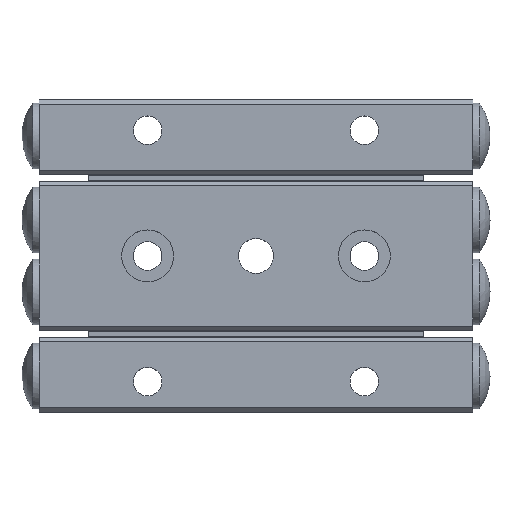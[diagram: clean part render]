
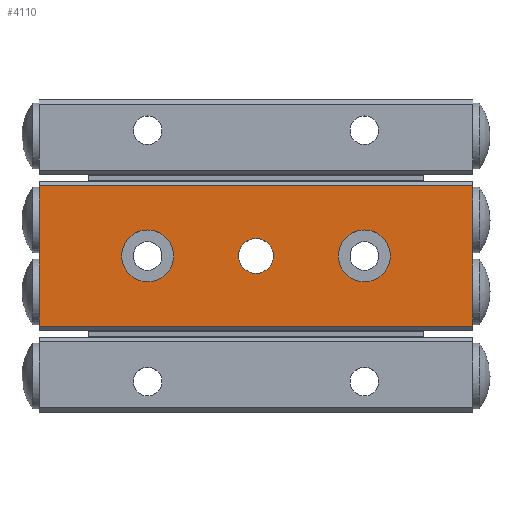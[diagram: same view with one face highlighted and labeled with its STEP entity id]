
A CAD part, top view. The second image highlights one B-rep face of the part: STEP entity #4110.
In plain terms, the highlighted planar face has unit normal (0, 0, 1) as drawn and (0, -1, 0) by its records, which use the part's own axes.
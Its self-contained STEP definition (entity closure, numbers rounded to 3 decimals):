
#222=CIRCLE('',#5504,2.);
#223=CIRCLE('',#5505,3.);
#224=CIRCLE('',#5506,3.);
#374=ORIENTED_EDGE('',*,*,#1597,.F.);
#375=ORIENTED_EDGE('',*,*,#1598,.F.);
#376=ORIENTED_EDGE('',*,*,#1599,.F.);
#377=ORIENTED_EDGE('',*,*,#1590,.T.);
#378=ORIENTED_EDGE('',*,*,#1600,.T.);
#379=ORIENTED_EDGE('',*,*,#1601,.T.);
#380=ORIENTED_EDGE('',*,*,#1602,.T.);
#381=ORIENTED_EDGE('',*,*,#1583,.T.);
#382=ORIENTED_EDGE('',*,*,#1603,.F.);
#383=ORIENTED_EDGE('',*,*,#1576,.F.);
#384=ORIENTED_EDGE('',*,*,#1604,.F.);
#385=ORIENTED_EDGE('',*,*,#1605,.F.);
#386=ORIENTED_EDGE('',*,*,#1606,.F.);
#387=ORIENTED_EDGE('',*,*,#1584,.F.);
#388=ORIENTED_EDGE('',*,*,#1596,.T.);
#1576=EDGE_CURVE('',#2190,#2191,#2597,.T.);
#1583=EDGE_CURVE('',#2194,#2197,#2603,.T.);
#1584=EDGE_CURVE('',#2198,#2199,#2604,.T.);
#1590=EDGE_CURVE('',#2205,#2203,#2608,.T.);
#1596=EDGE_CURVE('',#2198,#2205,#2614,.T.);
#1597=EDGE_CURVE('',#2208,#2208,#222,.T.);
#1598=EDGE_CURVE('',#2209,#2209,#223,.T.);
#1599=EDGE_CURVE('',#2210,#2210,#224,.T.);
#1600=EDGE_CURVE('',#2203,#2211,#2615,.T.);
#1601=EDGE_CURVE('',#2211,#2212,#2616,.T.);
#1602=EDGE_CURVE('',#2212,#2194,#2617,.T.);
#1603=EDGE_CURVE('',#2191,#2197,#2618,.T.);
#1604=EDGE_CURVE('',#2213,#2190,#2619,.T.);
#1605=EDGE_CURVE('',#2214,#2213,#2620,.T.);
#1606=EDGE_CURVE('',#2199,#2214,#2621,.T.);
#2190=VERTEX_POINT('',#7185);
#2191=VERTEX_POINT('',#7187);
#2194=VERTEX_POINT('',#7194);
#2197=VERTEX_POINT('',#7200);
#2198=VERTEX_POINT('',#7204);
#2199=VERTEX_POINT('',#7205);
#2203=VERTEX_POINT('',#7215);
#2205=VERTEX_POINT('',#7218);
#2208=VERTEX_POINT('',#7231);
#2209=VERTEX_POINT('',#7233);
#2210=VERTEX_POINT('',#7235);
#2211=VERTEX_POINT('',#7237);
#2212=VERTEX_POINT('',#7239);
#2213=VERTEX_POINT('',#7243);
#2214=VERTEX_POINT('',#7245);
#2597=LINE('',#7186,#2979);
#2603=LINE('',#7201,#2985);
#2604=LINE('',#7203,#2986);
#2608=LINE('',#7217,#2990);
#2614=LINE('',#7228,#2996);
#2615=LINE('',#7236,#2997);
#2616=LINE('',#7238,#2998);
#2617=LINE('',#7240,#2999);
#2618=LINE('',#7241,#3000);
#2619=LINE('',#7242,#3001);
#2620=LINE('',#7244,#3002);
#2621=LINE('',#7246,#3003);
#2979=VECTOR('',#5934,1000.);
#2985=VECTOR('',#5944,1000.);
#2986=VECTOR('',#5947,1000.);
#2990=VECTOR('',#5957,1000.);
#2996=VECTOR('',#5967,1000.);
#2997=VECTOR('',#5976,1000.);
#2998=VECTOR('',#5977,1000.);
#2999=VECTOR('',#5978,1000.);
#3000=VECTOR('',#5979,1000.);
#3001=VECTOR('',#5980,1000.);
#3002=VECTOR('',#5981,1000.);
#3003=VECTOR('',#5982,1000.);
#3366=EDGE_LOOP('',(#374));
#3367=EDGE_LOOP('',(#375));
#3368=EDGE_LOOP('',(#376));
#3369=EDGE_LOOP('',(#377,#378,#379,#380,#381,#382,#383,#384,#385,#386,#387,
#388));
#3654=FACE_BOUND('',#3366,.T.);
#3655=FACE_BOUND('',#3367,.T.);
#3656=FACE_BOUND('',#3368,.T.);
#3657=FACE_BOUND('',#3369,.T.);
#3942=PLANE('',#5503);
#4110=ADVANCED_FACE('',(#3654,#3655,#3656,#3657),#3942,.F.);
#5503=AXIS2_PLACEMENT_3D('',#7229,#5968,#5969);
#5504=AXIS2_PLACEMENT_3D('',#7230,#5970,#5971);
#5505=AXIS2_PLACEMENT_3D('',#7232,#5972,#5973);
#5506=AXIS2_PLACEMENT_3D('',#7234,#5974,#5975);
#5934=DIRECTION('',(0.,0.,-1.));
#5944=DIRECTION('',(0.,0.,-1.));
#5947=DIRECTION('',(0.,0.,-1.));
#5957=DIRECTION('',(0.,0.,-1.));
#5967=DIRECTION('',(-1.,0.,0.));
#5968=DIRECTION('',(0.,1.,0.));
#5969=DIRECTION('',(0.,0.,1.));
#5970=DIRECTION('',(0.,-1.,0.));
#5971=DIRECTION('',(0.,0.,-1.));
#5972=DIRECTION('',(0.,-1.,0.));
#5973=DIRECTION('',(0.,0.,-1.));
#5974=DIRECTION('',(0.,-1.,0.));
#5975=DIRECTION('',(0.,0.,-1.));
#5976=DIRECTION('',(0.,0.,-1.));
#5977=DIRECTION('',(0.,0.,-1.));
#5978=DIRECTION('',(0.,0.,-1.));
#5979=DIRECTION('',(-1.,0.,0.));
#5980=DIRECTION('',(0.,0.,-1.));
#5981=DIRECTION('',(0.,0.,-1.));
#5982=DIRECTION('',(0.,0.,-1.));
#7185=CARTESIAN_POINT('',(52.,0.,-5.63));
#7186=CARTESIAN_POINT('',(52.,0.,8.1));
#7187=CARTESIAN_POINT('',(52.,0.,-8.1));
#7194=CARTESIAN_POINT('',(2.,0.,-5.63));
#7200=CARTESIAN_POINT('',(2.,0.,-8.1));
#7201=CARTESIAN_POINT('',(2.,0.,8.1));
#7203=CARTESIAN_POINT('',(52.,0.,8.1));
#7204=CARTESIAN_POINT('',(52.,0.,8.1));
#7205=CARTESIAN_POINT('',(52.,0.,5.63));
#7215=CARTESIAN_POINT('',(2.,0.,5.63));
#7217=CARTESIAN_POINT('',(2.,0.,8.1));
#7218=CARTESIAN_POINT('',(2.,0.,8.1));
#7228=CARTESIAN_POINT('',(52.,0.,8.1));
#7229=CARTESIAN_POINT('',(52.,0.,8.1));
#7230=CARTESIAN_POINT('',(27.,0.,0.));
#7231=CARTESIAN_POINT('',(27.,0.,-2.));
#7232=CARTESIAN_POINT('',(39.5,0.,0.));
#7233=CARTESIAN_POINT('',(39.5,0.,-3.));
#7234=CARTESIAN_POINT('',(14.5,0.,0.));
#7235=CARTESIAN_POINT('',(14.5,0.,-3.));
#7236=CARTESIAN_POINT('',(2.,0.,8.1));
#7237=CARTESIAN_POINT('',(2.,0.,2.67));
#7238=CARTESIAN_POINT('',(2.,0.,8.1));
#7239=CARTESIAN_POINT('',(2.,0.,-2.67));
#7240=CARTESIAN_POINT('',(2.,0.,8.1));
#7241=CARTESIAN_POINT('',(52.,0.,-8.1));
#7242=CARTESIAN_POINT('',(52.,0.,8.1));
#7243=CARTESIAN_POINT('',(52.,0.,-2.67));
#7244=CARTESIAN_POINT('',(52.,0.,8.1));
#7245=CARTESIAN_POINT('',(52.,0.,2.67));
#7246=CARTESIAN_POINT('',(52.,0.,8.1));
